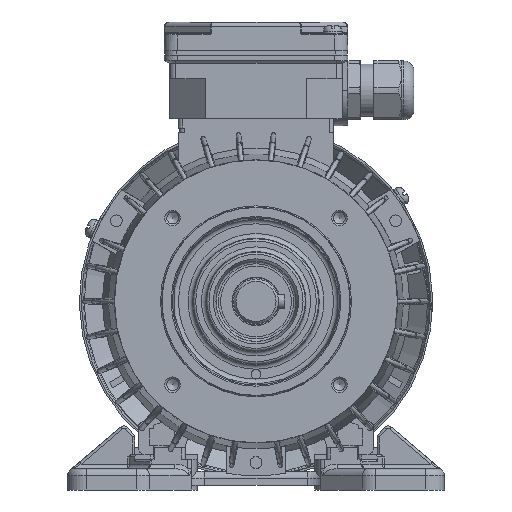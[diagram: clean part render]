
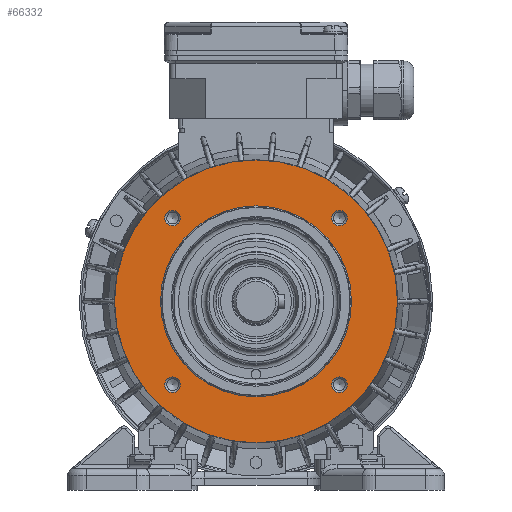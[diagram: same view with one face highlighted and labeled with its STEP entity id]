
A CAD part, left-side view. The second image highlights one B-rep face of the part: STEP entity #66332.
In plain terms, the highlighted planar face has unit normal (-1, 0, 0).
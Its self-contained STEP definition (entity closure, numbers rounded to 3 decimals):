
#16886=ORIENTED_EDGE('',*,*,#28553,.T.);
#16887=ORIENTED_EDGE('',*,*,#28552,.T.);
#16888=ORIENTED_EDGE('',*,*,#28551,.T.);
#16889=ORIENTED_EDGE('',*,*,#28550,.T.);
#16890=ORIENTED_EDGE('',*,*,#28549,.T.);
#16891=ORIENTED_EDGE('',*,*,#28574,.T.);
#28549=EDGE_CURVE('',#34934,#34934,#38658,.F.);
#28550=EDGE_CURVE('',#34935,#34935,#38659,.F.);
#28551=EDGE_CURVE('',#34936,#34936,#38660,.F.);
#28552=EDGE_CURVE('',#34937,#34937,#38661,.F.);
#28553=EDGE_CURVE('',#34938,#34938,#38662,.F.);
#28574=EDGE_CURVE('',#34959,#34959,#38671,.T.);
#34934=VERTEX_POINT('',#93527);
#34935=VERTEX_POINT('',#93530);
#34936=VERTEX_POINT('',#93533);
#34937=VERTEX_POINT('',#93536);
#34938=VERTEX_POINT('',#93539);
#34959=VERTEX_POINT('',#93674);
#38658=CIRCLE('',#70112,40.5);
#38659=CIRCLE('',#70114,3.3);
#38660=CIRCLE('',#70116,3.3);
#38661=CIRCLE('',#70118,3.3);
#38662=CIRCLE('',#70120,3.3);
#38671=CIRCLE('',#70134,60.);
#41175=EDGE_LOOP('',(#16886));
#41176=EDGE_LOOP('',(#16887));
#41177=EDGE_LOOP('',(#16888));
#41178=EDGE_LOOP('',(#16889));
#41179=EDGE_LOOP('',(#16890));
#41180=EDGE_LOOP('',(#16891));
#44422=FACE_BOUND('',#41175,.T.);
#44423=FACE_BOUND('',#41176,.T.);
#44424=FACE_BOUND('',#41177,.T.);
#44425=FACE_BOUND('',#41178,.T.);
#44426=FACE_BOUND('',#41179,.T.);
#44427=FACE_BOUND('',#41180,.T.);
#46845=PLANE('',#70133);
#66332=ADVANCED_FACE('',(#44422,#44423,#44424,#44425,#44426,#44427),#46845,
 .T.);
#70112=AXIS2_PLACEMENT_3D('',#93526,#79155,#79156);
#70114=AXIS2_PLACEMENT_3D('',#93529,#79159,#79160);
#70116=AXIS2_PLACEMENT_3D('',#93532,#79163,#79164);
#70118=AXIS2_PLACEMENT_3D('',#93535,#79167,#79168);
#70120=AXIS2_PLACEMENT_3D('',#93538,#79171,#79172);
#70133=AXIS2_PLACEMENT_3D('',#93672,#79205,#79206);
#70134=AXIS2_PLACEMENT_3D('',#93673,#79207,#79208);
#79155=DIRECTION('',(-1.,0.,0.));
#79156=DIRECTION('',(0.,0.,-1.));
#79159=DIRECTION('',(-1.,0.,0.));
#79160=DIRECTION('',(0.,0.,-1.));
#79163=DIRECTION('',(-1.,0.,0.));
#79164=DIRECTION('',(0.,0.,-1.));
#79167=DIRECTION('',(-1.,0.,0.));
#79168=DIRECTION('',(0.,0.,-1.));
#79171=DIRECTION('',(-1.,0.,0.));
#79172=DIRECTION('',(0.,0.,-1.));
#79205=DIRECTION('',(-1.,0.,0.));
#79206=DIRECTION('',(0.,0.,-1.));
#79207=DIRECTION('',(-1.,0.,0.));
#79208=DIRECTION('',(0.,0.,-1.));
#93526=CARTESIAN_POINT('',(-44.3,0.,0.));
#93527=CARTESIAN_POINT('',(-44.3,0.,-40.5));
#93529=CARTESIAN_POINT('',(-44.3,35.355,35.355));
#93530=CARTESIAN_POINT('',(-44.3,35.355,32.055));
#93532=CARTESIAN_POINT('',(-44.3,-35.355,35.355));
#93533=CARTESIAN_POINT('',(-44.3,-35.355,32.055));
#93535=CARTESIAN_POINT('',(-44.3,-35.355,-35.355));
#93536=CARTESIAN_POINT('',(-44.3,-35.355,-38.655));
#93538=CARTESIAN_POINT('',(-44.3,35.355,-35.355));
#93539=CARTESIAN_POINT('',(-44.3,35.355,-38.655));
#93672=CARTESIAN_POINT('',(-44.3,0.,40.));
#93673=CARTESIAN_POINT('',(-44.3,0.,0.));
#93674=CARTESIAN_POINT('',(-44.3,0.,-60.));
